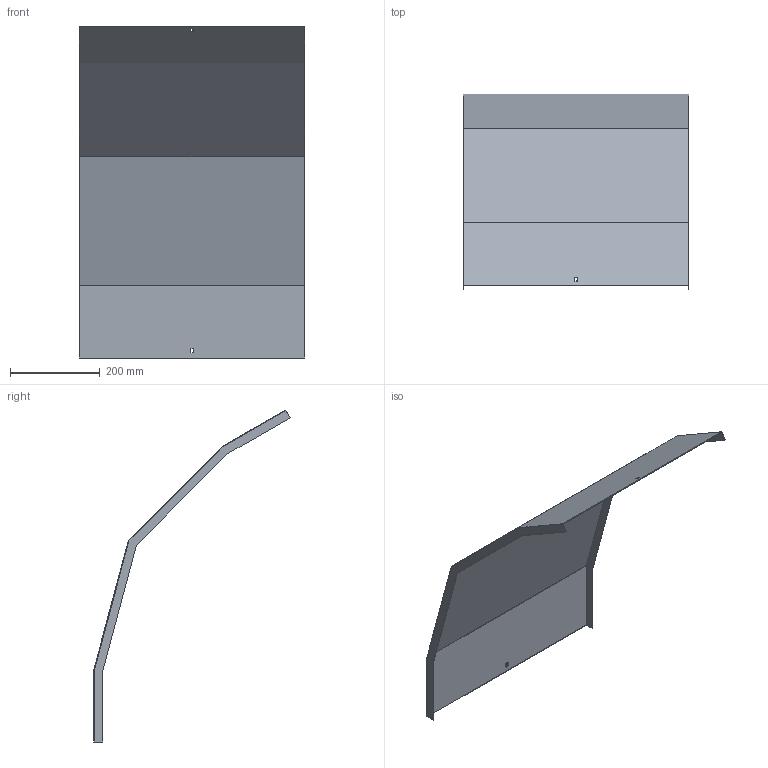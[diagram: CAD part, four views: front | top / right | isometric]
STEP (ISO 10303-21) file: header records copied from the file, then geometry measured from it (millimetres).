
FILE_DESCRIPTION (( 'STEP AP214' ), '1' );
FILE_NAME ('41N5C500.step', '2025-02-21T10:37:40', ( '' ), ( '' ), 'SwSTEP 2.0', 'SolidWorks 2023', '' );
FILE_SCHEMA (( 'AUTOMOTIVE_DESIGN' ));
Length unit declared in the file: millimetre
Products named in the file (1): 41N5C500
Bounding box: 503 x 437.72 x 740.83 mm (x, y, z)
Volume: 743182 mm3; surface area: 995318.7 mm2
Topology: 1 solids, 1 shells, 30 faces, 84 edges, 56 vertices
Faces by surface type: plane 30
Entity records: 979 total; most frequent: CARTESIAN_POINT 171, ORIENTED_EDGE 168, DIRECTION 146, LINE 84, EDGE_CURVE 84, VECTOR 84, VERTEX_POINT 56, EDGE_LOOP 34
